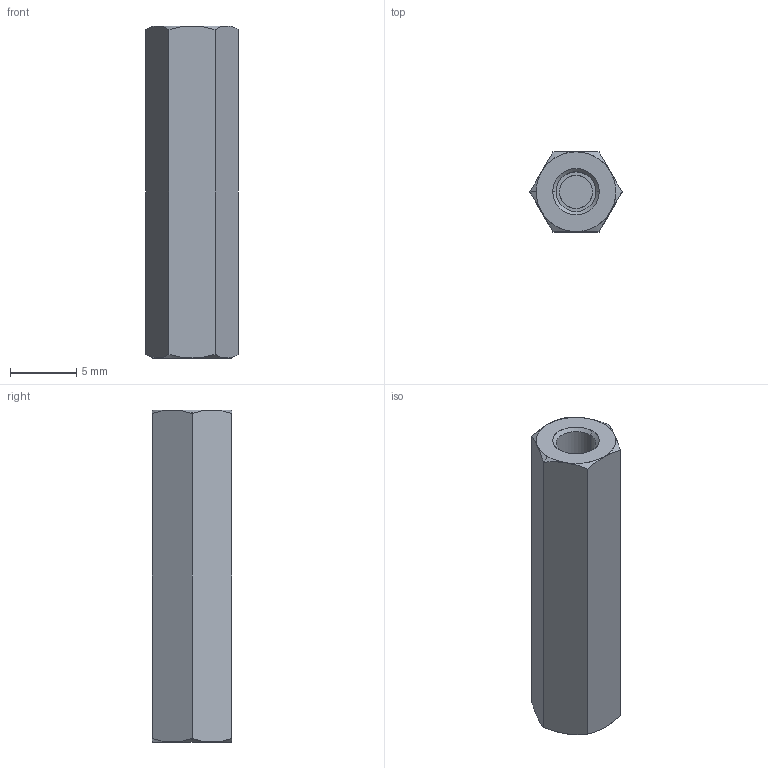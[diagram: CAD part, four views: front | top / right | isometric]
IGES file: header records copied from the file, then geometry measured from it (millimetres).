
Start section: SolidWorks IGES file using analytic representation for surfaces
Global section: file name: C:\Users\ianosborn\Desktop\N0503.NP_v2\N0503.NP_v2_20250227_IGES\N0503.030-025-NP.igs; native system: SolidWorks 2019; preprocessor: SolidWorks 2019; author: IanOsborn; date: 250227.144140; units: millimetre
Bounding box: 6.93 x 6 x 25 mm (x, y, z)
Surface area: 767.3 mm2 (no closed solid volume)
Topology: 0 solids, 0 shells, 38 faces, 502 edges, 502 vertices
Faces by surface type: revolution 26, bspline 12
